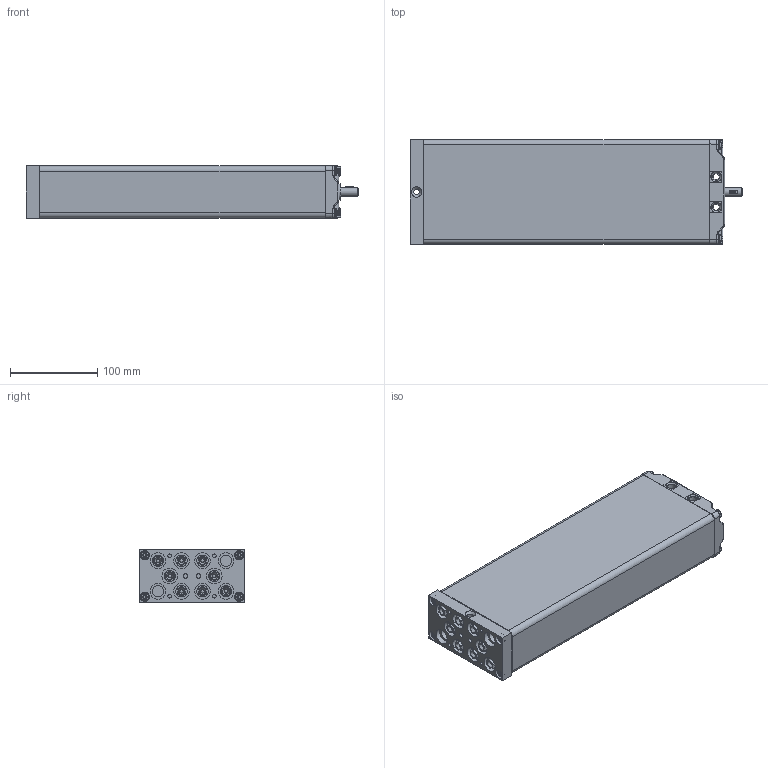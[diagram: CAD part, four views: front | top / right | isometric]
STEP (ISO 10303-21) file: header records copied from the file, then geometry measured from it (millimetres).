
FILE_DESCRIPTION(/* description */ ('Unknown'),/* implementation_level */ '2;1');
FILE_NAME(/* name */ '102.00202 Pumpe PB 8820 W',/* time_stamp */ '2016-11-14T17:32:35+01:00',/* author */ ('Unknown'),/* organization */ ('Unknown'),/* preprocessor_version */ 'ST-DEVELOPER v16.7',/* originating_system */ 'DEX',/* authorisation */ $);
FILE_SCHEMA (('AUTOMOTIVE_DESIGN {1 0 10303 214 3 1 1}'));
Products named in the file (16): 102.00202; 115.10032; 125.00061; 115.00008; 142.00021; 125.00021; 142.00013; 125.00142; 115.00140; 126.00006; 122.00040; 119.00042; 126.00036; 142.00057; 142.00083; 142.00017
Assembly tree (33 placements, depth 3):
  102.00202
    115.10032  x8
      125.00061
      115.00008
      142.00021
      125.00021
    142.00013  x8
    125.00142
    115.00140
      126.00006
      122.00040
    119.00042
    126.00036
    142.00057
    142.00083  x4
    142.00017  x2
Bounding box: 380.5 x 120 x 60.3 mm (x, y, z)
Volume: 533923.7 mm3; surface area: 346430.8 mm2
Topology: 44 solids, 44 shells, 2152 faces, 4894 edges, 2861 vertices
Faces by surface type: plane 763, cylinder 489, bspline 377, cone 355, torus 110, sphere 58
Full cylindrical faces by diameter (mm): 3.5 x8, 4.1 x8, 4.134 x4, 4.2 x8, 4.917 x2, 5 x12, 5.8 x4, 6 x2, 6.8 x1, 6.917 x16, 8 x17, 8.5 x4, 9.8 x8, 10 x5, 10.4 x1, 10.5 x4, 12.5 x8, 13 x26, 14 x1, 14.4 x8, 17.9 x16, 18 x11, 19 x1
Entity records: 60399 total; most frequent: CARTESIAN_POINT 28877, ORIENTED_EDGE 5076, DIRECTION 4435, EDGE_CURVE 2538, AXIS2_PLACEMENT_3D 1721, VERTEX_POINT 1603, FACE_BOUND 1413, EDGE_LOOP 1412
